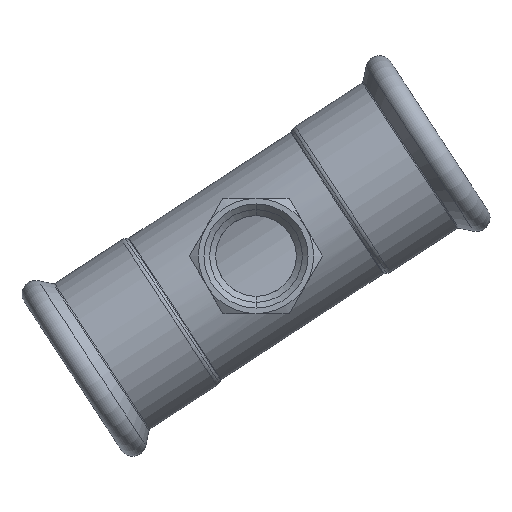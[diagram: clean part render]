
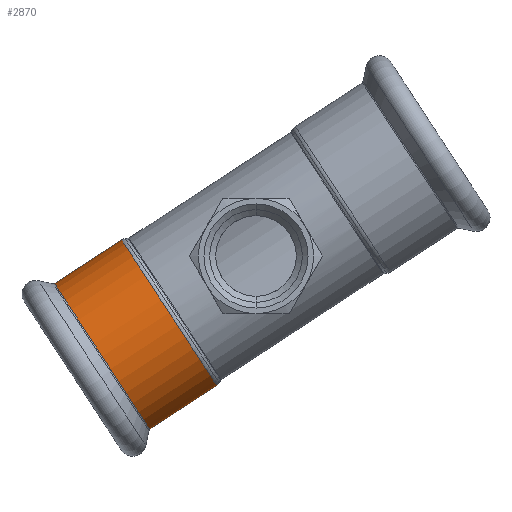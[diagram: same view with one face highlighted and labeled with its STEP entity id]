
A CAD part, front view. The second image highlights one B-rep face of the part: STEP entity #2870.
In plain terms, the highlighted cylindrical face has radius 22.65 mm (diameter 45.3 mm), a partial arc.
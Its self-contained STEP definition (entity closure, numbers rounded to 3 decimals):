
#6 = EDGE_CURVE ( 'NONE', #2585, #3861, #1626, .T. ) ;
#35 = EDGE_CURVE ( 'NONE', #3820, #3861, #3136, .T. ) ;
#56 = DIRECTION ( 'NONE',  ( -1., 0., 0. ) ) ;
#85 = DIRECTION ( 'NONE',  ( 0., 0., 1. ) ) ;
#117 = VERTEX_POINT ( 'NONE', #1976 ) ;
#241 = AXIS2_PLACEMENT_3D ( 'NONE', #3584, #3266, #85 ) ;
#395 = DIRECTION ( 'NONE',  ( -1., 0., 0. ) ) ;
#481 = AXIS2_PLACEMENT_3D ( 'NONE', #677, #2930, #3304 ) ;
#674 = CARTESIAN_POINT ( 'NONE',  ( 27., 0., -22.65 ) ) ;
#677 = CARTESIAN_POINT ( 'NONE',  ( 27., 0., 0. ) ) ;
#778 = DIRECTION ( 'NONE',  ( -1., 0., 0. ) ) ;
#876 = FACE_OUTER_BOUND ( 'NONE', #2764, .T. ) ;
#931 = EDGE_CURVE ( 'NONE', #117, #2585, #1507, .T. ) ;
#1013 = CARTESIAN_POINT ( 'NONE',  ( 27.146, 0., 22.65 ) ) ;
#1084 = CARTESIAN_POINT ( 'NONE',  ( 47.843, 0., 0. ) ) ;
#1261 = CARTESIAN_POINT ( 'NONE',  ( 27., 0., 22.65 ) ) ;
#1375 = ORIENTED_EDGE ( 'NONE', *, *, #35, .F. ) ;
#1507 = CIRCLE ( 'NONE', #2053, 22.65 ) ;
#1538 = EDGE_CURVE ( 'NONE', #117, #3820, #3060, .T. ) ;
#1626 = LINE ( 'NONE', #2448, #4067 ) ;
#1735 = CYLINDRICAL_SURFACE ( 'NONE', #241, 22.65 ) ;
#1870 = ORIENTED_EDGE ( 'NONE', *, *, #931, .T. ) ;
#1976 = CARTESIAN_POINT ( 'NONE',  ( 47.843, 0., 22.65 ) ) ;
#2053 = AXIS2_PLACEMENT_3D ( 'NONE', #1084, #395, #3883 ) ;
#2149 = CARTESIAN_POINT ( 'NONE',  ( 47.843, 0., -22.65 ) ) ;
#2219 = VECTOR ( 'NONE', #56, 1000. ) ;
#2438 = ORIENTED_EDGE ( 'NONE', *, *, #1538, .F. ) ;
#2448 = CARTESIAN_POINT ( 'NONE',  ( 27.146, 0., -22.65 ) ) ;
#2585 = VERTEX_POINT ( 'NONE', #2149 ) ;
#2764 = EDGE_LOOP ( 'NONE', ( #1870, #2990, #1375, #2438 ) ) ;
#2870 = ADVANCED_FACE ( 'NONE', ( #876 ), #1735, .T. ) ;
#2930 = DIRECTION ( 'NONE',  ( -1., 0., 0. ) ) ;
#2990 = ORIENTED_EDGE ( 'NONE', *, *, #6, .T. ) ;
#3060 = LINE ( 'NONE', #1013, #2219 ) ;
#3136 = CIRCLE ( 'NONE', #481, 22.65 ) ;
#3266 = DIRECTION ( 'NONE',  ( -1., 0., 0. ) ) ;
#3304 = DIRECTION ( 'NONE',  ( 0., 0., 1. ) ) ;
#3584 = CARTESIAN_POINT ( 'NONE',  ( 27.146, 0., 0. ) ) ;
#3820 = VERTEX_POINT ( 'NONE', #1261 ) ;
#3861 = VERTEX_POINT ( 'NONE', #674 ) ;
#3883 = DIRECTION ( 'NONE',  ( 0., 0., 1. ) ) ;
#4067 = VECTOR ( 'NONE', #778, 1000. ) ;
